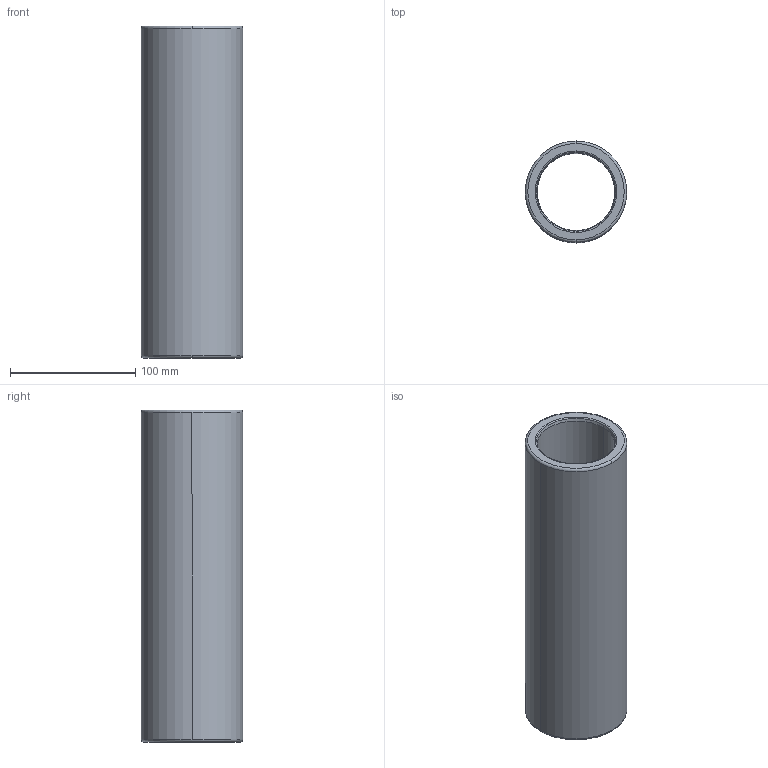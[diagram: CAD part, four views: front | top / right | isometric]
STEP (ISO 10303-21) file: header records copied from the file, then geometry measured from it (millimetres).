
FILE_DESCRIPTION((''),'2;1');
FILE_NAME('B30_050_265.stp','2009-01-12T10:59:22',(''),(''),'Mechanical Desktop 2009','Mechanical Desktop 2009',', , ');
FILE_SCHEMA(('CONFIG_CONTROL_DESIGN'));
Length unit declared in the file: millimetre
Products named in the file (2): Product; blmdl1
Assembly tree (1 placements, depth 2):
  Product
    blmdl1
Bounding box: 80.98 x 80.98 x 265 mm (x, y, z)
Volume: 564961.7 mm3; surface area: 122486.1 mm2
Topology: 1 solids, 1 shells, 18 faces, 48 edges, 32 vertices
Faces by surface type: torus 8, cylinder 4, cone 4, plane 2
Entity records: 705 total; most frequent: DIRECTION 128, CARTESIAN_POINT 100, ORIENTED_EDGE 96, AXIS2_PLACEMENT_3D 60, EDGE_CURVE 48, CIRCLE 40, VERTEX_POINT 32, EDGE_LOOP 20
